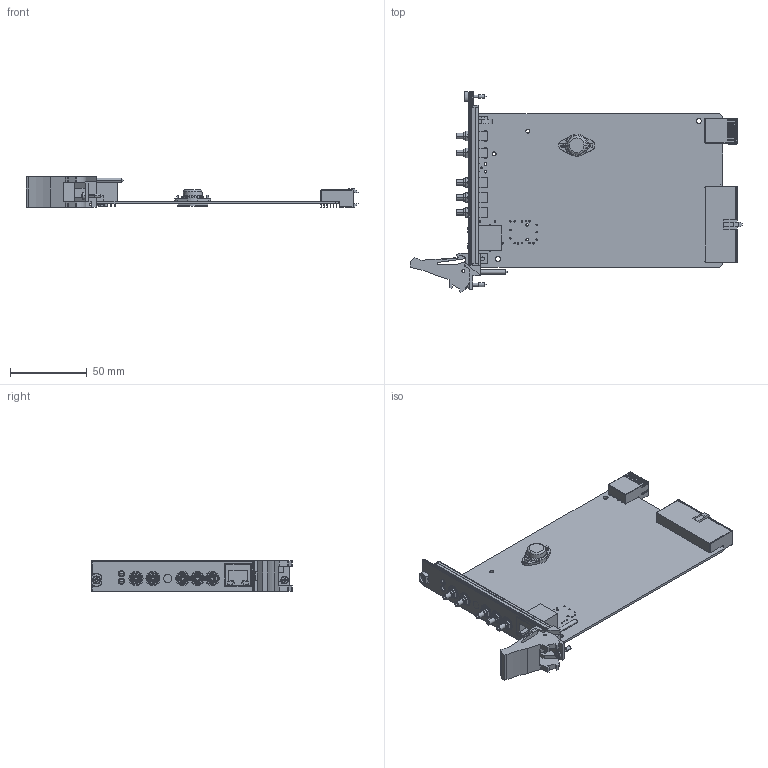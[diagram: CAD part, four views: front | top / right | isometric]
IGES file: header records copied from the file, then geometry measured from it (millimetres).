
Start section:  PTC IGES file: cu_cca_pxi-6683h.igs
Global section: file name: cu_cca_pxi-6683h.igs; native system: Pro/ENGINEER by Parametric Technology Corporation; preprocessor: 2011490; author: gvillanu; organization: Unknown; date: 20140114.105423; units: inch
Bounding box: 216.08 x 130.5 x 20.49 mm (x, y, z)
Surface area: 61932.8 mm2 (no closed solid volume)
Topology: 0 solids, 0 shells, 1304 faces, 7389 edges, 7372 vertices
Faces by surface type: bspline 938, revolution 366
